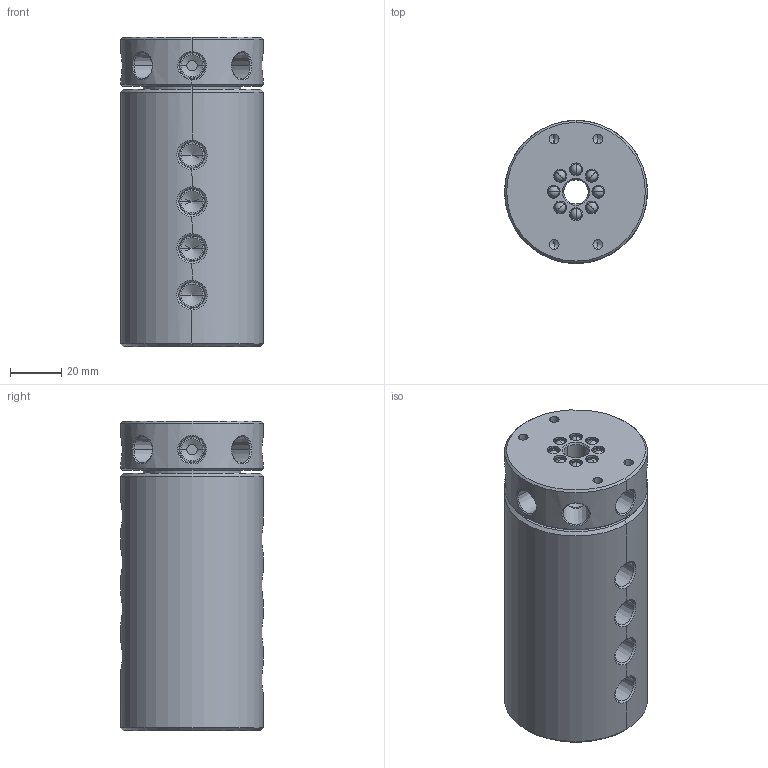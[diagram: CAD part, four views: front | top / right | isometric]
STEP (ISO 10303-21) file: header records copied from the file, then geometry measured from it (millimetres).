
FILE_DESCRIPTION (( 'STEP AP214' ), '1' );
FILE_NAME ('LT(M)-2181.STEP', '2013-01-03T17:19:22', ( '' ), ( '' ), 'SwSTEP 2.0', 'SolidWorks 2011', '' );
FILE_SCHEMA (( 'AUTOMOTIVE_DESIGN' ));
Length unit declared in the file: inch
Products named in the file (1): LT(M)-2181
Bounding box: 55.55 x 55.55 x 120.55 mm (x, y, z)
Volume: 260560.6 mm3; surface area: 39776.2 mm2
Topology: 1 solids, 1 shells, 320 faces, 778 edges, 468 vertices
Faces by surface type: cylinder 126, cone 94, plane 50, bspline 32, sphere 16, torus 2
Entity records: 14382 total; most frequent: CARTESIAN_POINT 5378, DIRECTION 1464, ORIENTED_EDGE 1428, EDGE_CURVE 714, AXIS2_PLACEMENT_3D 609, VERTEX_POINT 452, EDGE_LOOP 378, FACE_OUTER_BOUND 320
